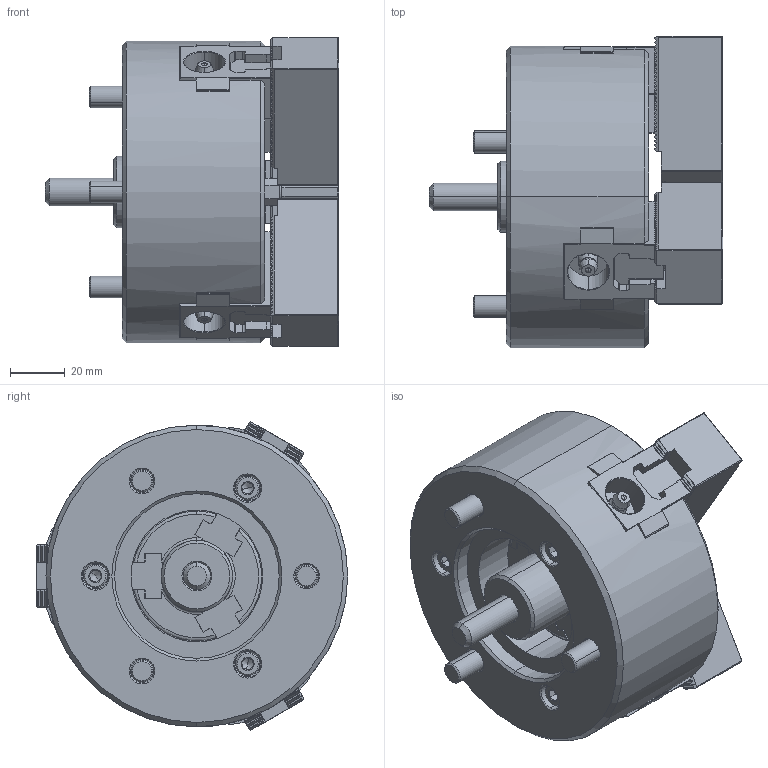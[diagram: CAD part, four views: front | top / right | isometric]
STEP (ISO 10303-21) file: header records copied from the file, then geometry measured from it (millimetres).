
FILE_DESCRIPTION (( 'STEP AP214' ), '1' );
FILE_NAME ('DT1_N-04_OUTSIDE_VIEW_UC.STEP', '2026-03-13T01:32:18', ( '' ), ( '' ), 'SwSTEP 2.0', 'SolidWorks 2022', '' );
FILE_SCHEMA (( 'AUTOMOTIVE_DESIGN' ));
Length unit declared in the file: millimetre
Products named in the file (10): DT1_N-04_COVER^DT1_N-04; DT1_N-04_M3x8^DT1_N-04; DT1_N-04_DRAWSCREW^DT1_N-04; DT1_N-04_M8x22^DT1_N-04; DT1_N-04_BASE^DT1_N-04; DT1_N-04_TNUT^DT1_N-04; DT1_N-04_OUTSIDE_VIEW_UC; DT1_N-04_M8x55^DT1_N-04; DT1_N-04_DN^DT1_N-04; DT1_N-04_SOFTJAW^DT1_N-04
Assembly tree (22 placements, depth 2):
  DT1_N-04_OUTSIDE_VIEW_UC
    DT1_N-04_SOFTJAW^DT1_N-04  x3
    DT1_N-04_TNUT^DT1_N-04  x3
    DT1_N-04_COVER^DT1_N-04
    DT1_N-04_DRAWSCREW^DT1_N-04
    DT1_N-04_DN^DT1_N-04
    DT1_N-04_BASE^DT1_N-04
    DT1_N-04_M8x22^DT1_N-04  x6
    DT1_N-04_M8x55^DT1_N-04  x3
    DT1_N-04_M3x8^DT1_N-04  x3
Bounding box: 107 x 113.55 x 112.51 mm (x, y, z)
Volume: 536077.7 mm3; surface area: 114290.4 mm2
Topology: 22 solids, 22 shells, 3356 faces, 9050 edges, 5790 vertices
Faces by surface type: plane 2231, cylinder 715, cone 258, bspline 90, torus 56, sphere 6
Entity records: 76940 total; most frequent: CARTESIAN_POINT 19336, ORIENTED_EDGE 12640, DIRECTION 10748, EDGE_CURVE 6320, LINE 4736, VECTOR 4736, VERTEX_POINT 4093, AXIS2_PLACEMENT_3D 3006
